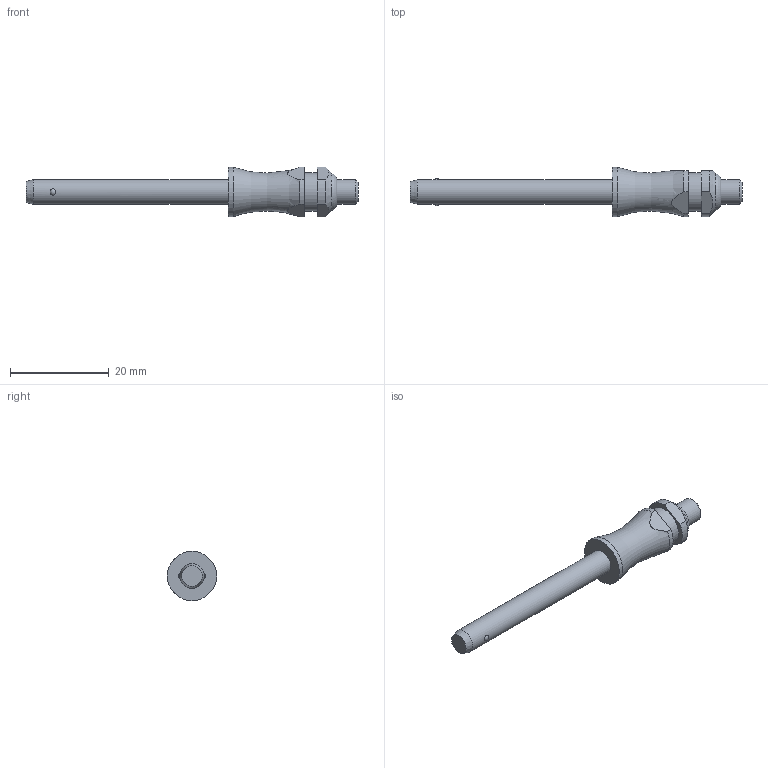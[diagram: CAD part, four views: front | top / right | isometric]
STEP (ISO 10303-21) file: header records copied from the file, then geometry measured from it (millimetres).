
FILE_DESCRIPTION( ( 'STEP AP203' ), '1' );
FILE_NAME( 'C:/Temp/Ganter_Step_05_03_2020/data/3_1/gn113_3/Stainless Steel-Ball lock pin GN 113.3-5-35 (deactivated).stp', '2020-03-12T08:18:11', ( 'License CC BY-ND 4.0' ), ( 'CADENAS' ), ' ', 'PARTsolutions', ' ' );
FILE_SCHEMA( ( 'CONFIG_CONTROL_DESIGN' ) );
Length unit declared in the file: millimetre
Products named in the file (1): _Stainless Steel-Ball lock pin GN 113.3-5-35 (deactivated)
Bounding box: 67.3 x 10 x 10 mm (x, y, z)
Volume: 2141.6 mm3; surface area: 1463.5 mm2
Topology: 1 solids, 1 shells, 29 faces, 61 edges, 40 vertices
Faces by surface type: plane 12, cylinder 10, cone 3, torus 2, sphere 2
Full cylindrical faces by diameter (mm): 5 x2, 7.9 x1, 10 x1
Entity records: 902 total; most frequent: CARTESIAN_POINT 272, DIRECTION 126, ORIENTED_EDGE 100, AXIS2_PLACEMENT_3D 54, EDGE_CURVE 50, EDGE_LOOP 44, VERTEX_POINT 38, FACE_OUTER_BOUND 35
